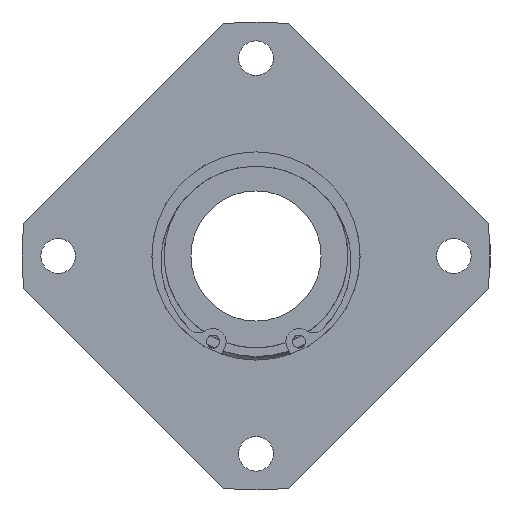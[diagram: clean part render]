
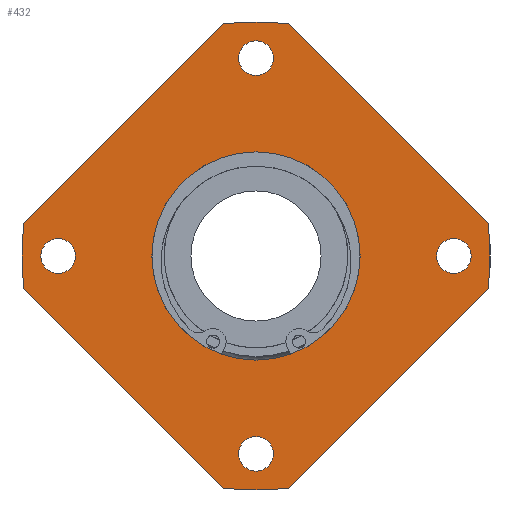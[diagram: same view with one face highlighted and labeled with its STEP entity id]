
A CAD part, left-side view. The second image highlights one B-rep face of the part: STEP entity #432.
In plain terms, the highlighted planar face has unit normal (-1, 0, 0).
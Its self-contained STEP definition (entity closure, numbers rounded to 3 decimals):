
#60=CARTESIAN_POINT('',(0.0,38.0,-3.324));
#61=VERTEX_POINT('',#60);
#62=CARTESIAN_POINT('',(0.0,38.0,0.));
#63=DIRECTION('',(1.0,0.0,0.0));
#64=DIRECTION('',(0.0,0.0,-1.0));
#65=AXIS2_PLACEMENT_3D('',#62,#63,#64);
#66=CIRCLE('',#65,3.324);
#67=EDGE_CURVE('',#61,#61,#66,.T.);
#88=CARTESIAN_POINT('',(0.0,-3.324,-38.0));
#89=VERTEX_POINT('',#88);
#90=CARTESIAN_POINT('',(0.0,0.,-38.0));
#91=DIRECTION('',(1.0,0.0,0.0));
#92=DIRECTION('',(0.0,-1.0,0.0));
#93=AXIS2_PLACEMENT_3D('',#90,#91,#92);
#94=CIRCLE('',#93,3.324);
#95=EDGE_CURVE('',#89,#89,#94,.T.);
#116=CARTESIAN_POINT('',(0.0,-38.0,3.324));
#117=VERTEX_POINT('',#116);
#118=CARTESIAN_POINT('',(0.0,-38.0,0.));
#119=DIRECTION('',(1.0,0.0,0.0));
#120=DIRECTION('',(0.0,0.0,1.0));
#121=AXIS2_PLACEMENT_3D('',#118,#119,#120);
#122=CIRCLE('',#121,3.324);
#123=EDGE_CURVE('',#117,#117,#122,.T.);
#144=CARTESIAN_POINT('',(0.0,3.324,38.0));
#145=VERTEX_POINT('',#144);
#146=CARTESIAN_POINT('',(0.0,0.0,38.0));
#147=DIRECTION('',(1.0,0.0,0.0));
#148=DIRECTION('',(0.0,1.0,0.0));
#149=AXIS2_PLACEMENT_3D('',#146,#147,#148);
#150=CIRCLE('',#149,3.324);
#151=EDGE_CURVE('',#145,#145,#150,.T.);
#171=CARTESIAN_POINT('',(0.0,44.548,6.364));
#172=VERTEX_POINT('',#171);
#179=CARTESIAN_POINT('',(0.0,6.364,44.548));
#180=VERTEX_POINT('',#179);
#181=CARTESIAN_POINT('',(0.0,6.364,44.548));
#182=DIRECTION('',(0.0,0.707,-0.707));
#183=VECTOR('',#182,54.);
#184=LINE('',#181,#183);
#185=EDGE_CURVE('',#180,#172,#184,.T.);
#211=CARTESIAN_POINT('',(0.0,-44.548,-6.364));
#212=VERTEX_POINT('',#211);
#219=CARTESIAN_POINT('',(0.0,-6.364,-44.548));
#220=VERTEX_POINT('',#219);
#221=CARTESIAN_POINT('',(0.0,-6.364,-44.548));
#222=DIRECTION('',(0.0,-0.707,0.707));
#223=VECTOR('',#222,54.);
#224=LINE('',#221,#223);
#225=EDGE_CURVE('',#220,#212,#224,.T.);
#251=CARTESIAN_POINT('',(0.0,6.364,-44.548));
#252=VERTEX_POINT('',#251);
#259=CARTESIAN_POINT('',(0.0,44.548,-6.364));
#260=VERTEX_POINT('',#259);
#261=CARTESIAN_POINT('',(0.0,44.548,-6.364));
#262=DIRECTION('',(0.0,-0.707,-0.707));
#263=VECTOR('',#262,54.);
#264=LINE('',#261,#263);
#265=EDGE_CURVE('',#260,#252,#264,.T.);
#291=CARTESIAN_POINT('',(0.0,-6.364,44.548));
#292=VERTEX_POINT('',#291);
#299=CARTESIAN_POINT('',(0.0,-44.548,6.364));
#300=VERTEX_POINT('',#299);
#301=CARTESIAN_POINT('',(0.0,-44.548,6.364));
#302=DIRECTION('',(0.0,0.707,0.707));
#303=VECTOR('',#302,54.);
#304=LINE('',#301,#303);
#305=EDGE_CURVE('',#300,#292,#304,.T.);
#330=CARTESIAN_POINT('',(0.0,0.0,0.0));
#331=DIRECTION('',(-1.0,0.0,0.0));
#332=DIRECTION('',(0.0,0.0,1.0));
#333=AXIS2_PLACEMENT_3D('',#330,#331,#332);
#334=CIRCLE('',#333,45.0);
#335=EDGE_CURVE('',#172,#260,#334,.T.);
#354=CARTESIAN_POINT('',(0.0,0.0,0.0));
#355=DIRECTION('',(-1.0,0.0,0.0));
#356=DIRECTION('',(0.0,0.0,1.0));
#357=AXIS2_PLACEMENT_3D('',#354,#355,#356);
#358=CIRCLE('',#357,45.0);
#359=EDGE_CURVE('',#212,#300,#358,.T.);
#370=CARTESIAN_POINT('',(0.0,0.0,0.0));
#371=DIRECTION('',(-1.0,0.0,0.0));
#372=DIRECTION('',(0.0,0.0,1.0));
#373=AXIS2_PLACEMENT_3D('',#370,#371,#372);
#374=CIRCLE('',#373,45.0);
#375=EDGE_CURVE('',#252,#220,#374,.T.);
#388=CARTESIAN_POINT('',(0.0,0.0,32.5));
#389=DIRECTION('',(-1.0,0.0,0.0));
#390=DIRECTION('',(0.0,0.0,1.0));
#391=AXIS2_PLACEMENT_3D('',#388,#389,#390);
#392=PLANE('',#391);
#393=ORIENTED_EDGE('',*,*,#185,.T.);
#394=ORIENTED_EDGE('',*,*,#335,.T.);
#395=ORIENTED_EDGE('',*,*,#265,.T.);
#396=ORIENTED_EDGE('',*,*,#375,.T.);
#397=ORIENTED_EDGE('',*,*,#225,.T.);
#398=ORIENTED_EDGE('',*,*,#359,.T.);
#399=ORIENTED_EDGE('',*,*,#305,.T.);
#400=CARTESIAN_POINT('',(0.0,0.0,0.0));
#401=DIRECTION('',(-1.0,0.0,0.0));
#402=DIRECTION('',(0.0,0.0,1.0));
#403=AXIS2_PLACEMENT_3D('',#400,#401,#402);
#404=CIRCLE('',#403,45.0);
#405=EDGE_CURVE('',#292,#180,#404,.T.);
#406=ORIENTED_EDGE('',*,*,#405,.T.);
#407=EDGE_LOOP('',(#393,#394,#395,#396,#397,#398,#399,#406));
#408=FACE_OUTER_BOUND('',#407,.T.);
#409=ORIENTED_EDGE('',*,*,#67,.T.);
#410=EDGE_LOOP('',(#409));
#411=FACE_BOUND('',#410,.T.);
#412=ORIENTED_EDGE('',*,*,#95,.T.);
#413=EDGE_LOOP('',(#412));
#414=FACE_BOUND('',#413,.T.);
#415=ORIENTED_EDGE('',*,*,#123,.T.);
#416=EDGE_LOOP('',(#415));
#417=FACE_BOUND('',#416,.T.);
#418=ORIENTED_EDGE('',*,*,#151,.T.);
#419=EDGE_LOOP('',(#418));
#420=FACE_BOUND('',#419,.T.);
#421=CARTESIAN_POINT('',(0.0,0.0,20.0));
#422=VERTEX_POINT('',#421);
#423=CARTESIAN_POINT('',(0.0,0.0,0.0));
#424=DIRECTION('',(-1.0,0.0,0.0));
#425=DIRECTION('',(0.0,0.0,1.0));
#426=AXIS2_PLACEMENT_3D('',#423,#424,#425);
#427=CIRCLE('',#426,20.0);
#428=EDGE_CURVE('',#422,#422,#427,.T.);
#429=ORIENTED_EDGE('',*,*,#428,.F.);
#430=EDGE_LOOP('',(#429));
#431=FACE_BOUND('',#430,.T.);
#432=ADVANCED_FACE('',(#408,#411,#414,#417,#420,#431),#392,.T.);
